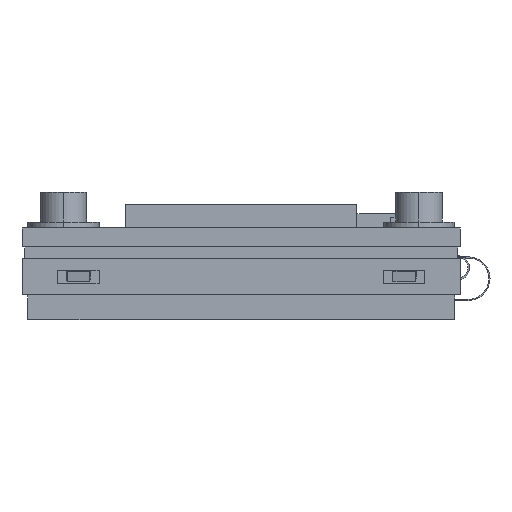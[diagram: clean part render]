
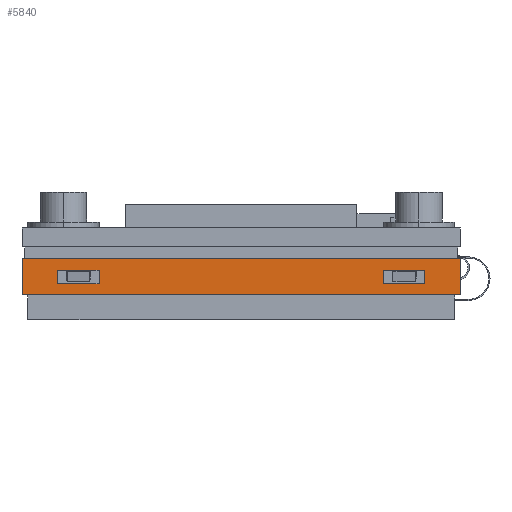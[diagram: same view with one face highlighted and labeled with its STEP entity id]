
A CAD part, left-side view. The second image highlights one B-rep face of the part: STEP entity #5840.
In plain terms, the highlighted planar face has unit normal (-1, 0, 0) as drawn and (1, 0, 0) by its records, which use the part's own axes.
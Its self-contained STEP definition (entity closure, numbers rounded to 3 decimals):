
#295 = VECTOR ( 'NONE', #11441, 1000. ) ;
#456 = LINE ( 'NONE', #40862, #18894 ) ;
#805 = LINE ( 'NONE', #28657, #295 ) ;
#1248 = CARTESIAN_POINT ( 'NONE',  ( 52.75, 0., 3.05 ) ) ;
#1706 = VECTOR ( 'NONE', #17445, 1000. ) ;
#1733 = CARTESIAN_POINT ( 'NONE',  ( 52.75, -15.5, 2.1 ) ) ;
#2570 = EDGE_CURVE ( 'NONE', #43787, #29391, #456, .T. ) ;
#3236 = ORIENTED_EDGE ( 'NONE', *, *, #2570, .F. ) ;
#3605 = VECTOR ( 'NONE', #10723, 1000. ) ;
#4214 = VERTEX_POINT ( 'NONE', #20559 ) ;
#4260 = DIRECTION ( 'NONE',  ( 0., 0., -1. ) ) ;
#5049 = CARTESIAN_POINT ( 'NONE',  ( 52.75, -18.5, 3.05 ) ) ;
#5342 = ORIENTED_EDGE ( 'NONE', *, *, #20680, .F. ) ;
#5345 = VECTOR ( 'NONE', #16056, 1000. ) ;
#5840 = ADVANCED_FACE ( 'NONE', ( #36421, #24983, #6573 ), #12820, .T. ) ;
#6573 = FACE_OUTER_BOUND ( 'NONE', #39227, .T. ) ;
#6814 = LINE ( 'NONE', #1248, #14430 ) ;
#6857 = VERTEX_POINT ( 'NONE', #23335 ) ;
#7049 = CARTESIAN_POINT ( 'NONE',  ( 52.75, -12., 2.1 ) ) ;
#7951 = ORIENTED_EDGE ( 'NONE', *, *, #43335, .F. ) ;
#8038 = EDGE_CURVE ( 'NONE', #35346, #13677, #30328, .T. ) ;
#9760 = DIRECTION ( 'NONE',  ( 0., 0., -1. ) ) ;
#9796 = ORIENTED_EDGE ( 'NONE', *, *, #33677, .T. ) ;
#9825 = EDGE_LOOP ( 'NONE', ( #12050, #5342, #25595, #31797 ) ) ;
#10241 = LINE ( 'NONE', #14694, #5345 ) ;
#10448 = EDGE_CURVE ( 'NONE', #4214, #12556, #40460, .T. ) ;
#10668 = CARTESIAN_POINT ( 'NONE',  ( 52.75, 12., 2.1 ) ) ;
#10723 = DIRECTION ( 'NONE',  ( 0., 1., 0. ) ) ;
#10988 = ORIENTED_EDGE ( 'NONE', *, *, #10448, .F. ) ;
#11441 = DIRECTION ( 'NONE',  ( 0., 0., 1. ) ) ;
#11729 = DIRECTION ( 'NONE',  ( 0., -1., 0. ) ) ;
#11930 = EDGE_CURVE ( 'NONE', #22329, #6857, #41851, .T. ) ;
#12050 = ORIENTED_EDGE ( 'NONE', *, *, #36162, .F. ) ;
#12556 = VERTEX_POINT ( 'NONE', #36566 ) ;
#12820 = PLANE ( 'NONE',  #20353 ) ;
#13129 = CARTESIAN_POINT ( 'NONE',  ( 52.75, 0., 3.05 ) ) ;
#13677 = VERTEX_POINT ( 'NONE', #16700 ) ;
#14426 = CARTESIAN_POINT ( 'NONE',  ( 52.75, -15.5, 2.1 ) ) ;
#14430 = VECTOR ( 'NONE', #11729, 1000. ) ;
#14693 = CARTESIAN_POINT ( 'NONE',  ( 52.75, 15.5, 0.95 ) ) ;
#14694 = CARTESIAN_POINT ( 'NONE',  ( 52.75, -12., 2.1 ) ) ;
#14744 = EDGE_CURVE ( 'NONE', #13677, #15768, #30627, .T. ) ;
#14842 = VERTEX_POINT ( 'NONE', #7049 ) ;
#15768 = VERTEX_POINT ( 'NONE', #19999 ) ;
#16056 = DIRECTION ( 'NONE',  ( 0., 0., 1. ) ) ;
#16121 = EDGE_LOOP ( 'NONE', ( #3236, #41268, #10988, #25265 ) ) ;
#16700 = CARTESIAN_POINT ( 'NONE',  ( 52.75, -15.5, 0.95 ) ) ;
#16798 = VECTOR ( 'NONE', #35088, 1000. ) ;
#17445 = DIRECTION ( 'NONE',  ( 0., 0., -1. ) ) ;
#17696 = CARTESIAN_POINT ( 'NONE',  ( 52.75, 12., 2.1 ) ) ;
#18894 = VECTOR ( 'NONE', #20060, 1000. ) ;
#18989 = VECTOR ( 'NONE', #4260, 1000. ) ;
#19999 = CARTESIAN_POINT ( 'NONE',  ( 52.75, -12., 0.95 ) ) ;
#20060 = DIRECTION ( 'NONE',  ( 0., -1., 0. ) ) ;
#20227 = VERTEX_POINT ( 'NONE', #33194 ) ;
#20353 = AXIS2_PLACEMENT_3D ( 'NONE', #13129, #34145, #9760 ) ;
#20559 = CARTESIAN_POINT ( 'NONE',  ( 52.75, 12., 0.95 ) ) ;
#20680 = EDGE_CURVE ( 'NONE', #15768, #14842, #10241, .T. ) ;
#22096 = VECTOR ( 'NONE', #29593, 1000. ) ;
#22329 = VERTEX_POINT ( 'NONE', #5049 ) ;
#23335 = CARTESIAN_POINT ( 'NONE',  ( 52.75, -18.5, 0. ) ) ;
#24466 = CARTESIAN_POINT ( 'NONE',  ( 52.75, -15.5, 0.95 ) ) ;
#24983 = FACE_BOUND ( 'NONE', #16121, .T. ) ;
#25141 = VERTEX_POINT ( 'NONE', #26414 ) ;
#25265 = ORIENTED_EDGE ( 'NONE', *, *, #43942, .F. ) ;
#25595 = ORIENTED_EDGE ( 'NONE', *, *, #14744, .F. ) ;
#25828 = LINE ( 'NONE', #38627, #31815 ) ;
#26414 = CARTESIAN_POINT ( 'NONE',  ( 52.75, 18.5, 3.05 ) ) ;
#26434 = DIRECTION ( 'NONE',  ( 0., 0., -1. ) ) ;
#26734 = EDGE_CURVE ( 'NONE', #12556, #43787, #805, .T. ) ;
#26809 = VECTOR ( 'NONE', #42444, 1000. ) ;
#28164 = ORIENTED_EDGE ( 'NONE', *, *, #11930, .T. ) ;
#28591 = CARTESIAN_POINT ( 'NONE',  ( 52.75, -15.5, 2.1 ) ) ;
#28657 = CARTESIAN_POINT ( 'NONE',  ( 52.75, 15.5, 2.1 ) ) ;
#29391 = VERTEX_POINT ( 'NONE', #10668 ) ;
#29593 = DIRECTION ( 'NONE',  ( 0., -1., 0. ) ) ;
#30328 = LINE ( 'NONE', #14426, #18989 ) ;
#30365 = VECTOR ( 'NONE', #26434, 1000. ) ;
#30627 = LINE ( 'NONE', #24466, #3605 ) ;
#31513 = LINE ( 'NONE', #41863, #1706 ) ;
#31797 = ORIENTED_EDGE ( 'NONE', *, *, #8038, .F. ) ;
#31815 = VECTOR ( 'NONE', #35419, 1000. ) ;
#33067 = EDGE_CURVE ( 'NONE', #20227, #6857, #25828, .T. ) ;
#33194 = CARTESIAN_POINT ( 'NONE',  ( 52.75, 18.5, 0. ) ) ;
#33677 = EDGE_CURVE ( 'NONE', #25141, #22329, #6814, .T. ) ;
#34145 = DIRECTION ( 'NONE',  ( 1., 0., 0. ) ) ;
#35088 = DIRECTION ( 'NONE',  ( 0., 0., -1. ) ) ;
#35346 = VERTEX_POINT ( 'NONE', #28591 ) ;
#35419 = DIRECTION ( 'NONE',  ( 0., -1., 0. ) ) ;
#36162 = EDGE_CURVE ( 'NONE', #14842, #35346, #38399, .T. ) ;
#36421 = FACE_BOUND ( 'NONE', #9825, .T. ) ;
#36566 = CARTESIAN_POINT ( 'NONE',  ( 52.75, 15.5, 0.95 ) ) ;
#38399 = LINE ( 'NONE', #1733, #22096 ) ;
#38627 = CARTESIAN_POINT ( 'NONE',  ( 52.75, 0., 0. ) ) ;
#39227 = EDGE_LOOP ( 'NONE', ( #41809, #7951, #9796, #28164 ) ) ;
#40460 = LINE ( 'NONE', #14693, #26809 ) ;
#40470 = CARTESIAN_POINT ( 'NONE',  ( 52.75, 15.5, 2.1 ) ) ;
#40862 = CARTESIAN_POINT ( 'NONE',  ( 52.75, 15.5, 2.1 ) ) ;
#41268 = ORIENTED_EDGE ( 'NONE', *, *, #26734, .F. ) ;
#41809 = ORIENTED_EDGE ( 'NONE', *, *, #33067, .F. ) ;
#41851 = LINE ( 'NONE', #43312, #30365 ) ;
#41863 = CARTESIAN_POINT ( 'NONE',  ( 52.75, 18.5, 3.05 ) ) ;
#42444 = DIRECTION ( 'NONE',  ( 0., 1., 0. ) ) ;
#43312 = CARTESIAN_POINT ( 'NONE',  ( 52.75, -18.5, 3.05 ) ) ;
#43335 = EDGE_CURVE ( 'NONE', #25141, #20227, #31513, .T. ) ;
#43376 = LINE ( 'NONE', #17696, #16798 ) ;
#43787 = VERTEX_POINT ( 'NONE', #40470 ) ;
#43942 = EDGE_CURVE ( 'NONE', #29391, #4214, #43376, .T. ) ;
